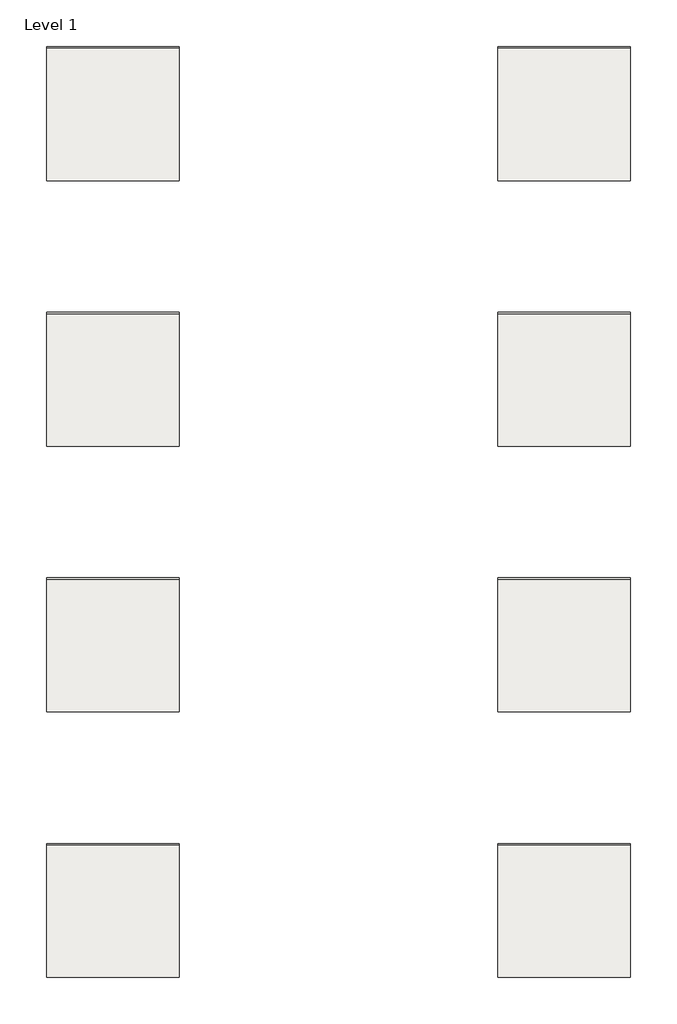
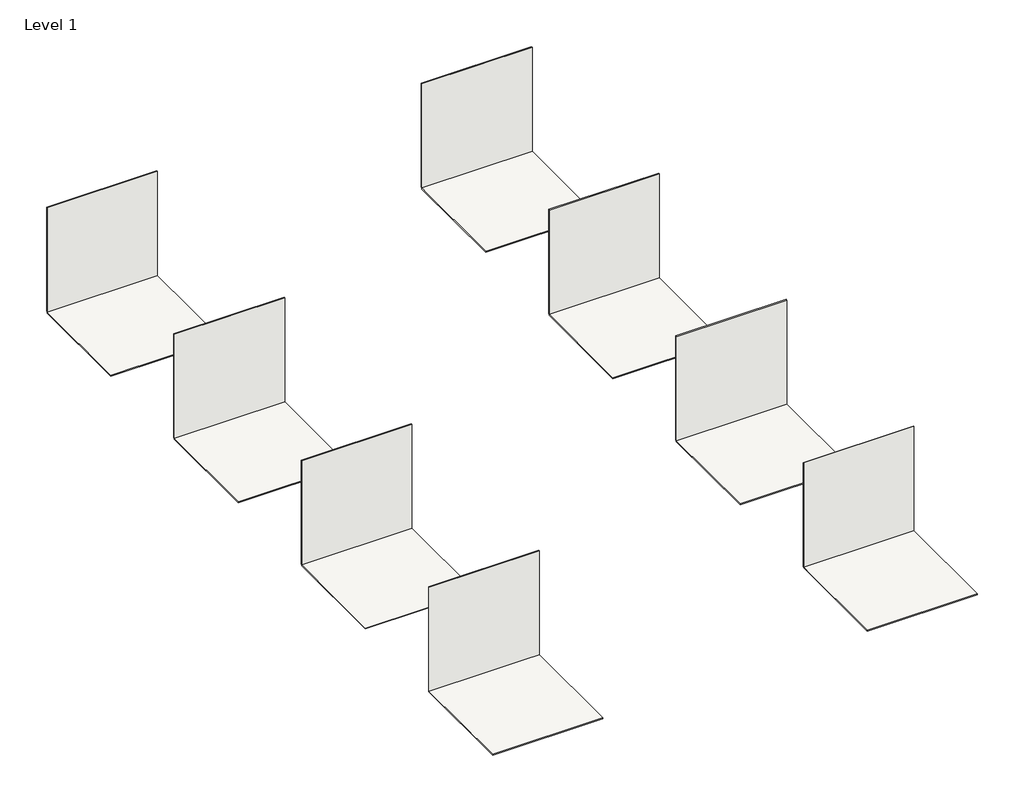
# One storey: 16 coverings.
"""IFC4 building model written with IfcOpenShell, lengths in millimetres."""

from ifc_helpers import new_model, si_unit, frame, origin, origin_with_axes, place, context, project, spatial, polyline, outline, extrude, element, save

model = new_model("IFC4")

# Units and contexts
model_context = context("Model", 3, world=origin())
ifc_project = project(units=[si_unit("LENGTHUNIT", "METRE", prefix="MILLI")], contexts=[model_context])

# Site, building, storey
site = spatial("IfcSite", under=ifc_project)
building = spatial("IfcBuilding", under=site)
storey = spatial("IfcBuildingStorey", under=building, Name="Level 1", Elevation=0.0)

# Coverings
placement = place(None, origin())
element("IfcCovering", 1, ObjectType="REVIGRES-TUSCANY_CLASSIC-BASE-88.9x88.9-MATTRECT-IVORY", at=placement, inside=storey, context=model_context, shape_type="SweptSolid", body=[
    extrude(outline(polyline([(4378.642714, -3291.9242026), (3378.642714, -3291.9242026), (3378.642714, -3281.4242026), (4378.642714, -3281.4242026), (4378.642714, -3291.9242026)])), origin_with_axes(), (0.0, 0.0, 1.0), 1000.0),
])
element("IfcCovering", 2, ObjectType="REVIGRES-TUSCANY_CLASSIC-BASE-88.9x88.9-MATTRECT-IVORY", at=placement, inside=storey, context=model_context, shape_type="SweptSolid", body=[
    extrude(outline(polyline([(4378.642714, -3291.9242026), (4378.642714, -4291.9242026), (3378.642714, -4291.9242026), (3378.642714, -3291.9242026), (4378.642714, -3291.9242026)])), frame((0.0, 0.0, -10.5), z_axis=(0.0, 0.0, 1.0), x_axis=(1.0, 0.0, 0.0)), (0.0, 0.0, 1.0), 10.5),
])
element("IfcCovering", 3, ObjectType="REVIGRES-TUSCANY_CLASSIC-BASE-88.9x88.9-MATTRECT-SAND", at=placement, inside=storey, context=model_context, shape_type="SweptSolid", body=[
    extrude(outline(polyline([(7778.642714, -3291.9242026), (6778.642714, -3291.9242026), (6778.642714, -3281.4242026), (7778.642714, -3281.4242026), (7778.642714, -3291.9242026)])), origin_with_axes(), (0.0, 0.0, 1.0), 1000.0),
])
element("IfcCovering", 4, ObjectType="REVIGRES-TUSCANY_CLASSIC-BASE-88.9x88.9-MATTRECT-SAND", at=placement, inside=storey, context=model_context, shape_type="SweptSolid", body=[
    extrude(outline(polyline([(7778.642714, -3291.9242026), (7778.642714, -4291.9242026), (6778.642714, -4291.9242026), (6778.642714, -3291.9242026), (7778.642714, -3291.9242026)])), frame((0.0, 0.0, -10.5), z_axis=(0.0, 0.0, 1.0), x_axis=(1.0, 0.0, 0.0)), (0.0, 0.0, 1.0), 10.5),
])
element("IfcCovering", 5, ObjectType="REVIGRES-TUSCANY_CLASSIC-BASE-59.2x118.6-MATTRECT-IVORY", at=placement, inside=storey, context=model_context, shape_type="SweptSolid", body=[
    extrude(outline(polyline([(4378.642714, -5291.9242026), (3378.642714, -5291.9242026), (3378.642714, -5282.1242026), (4378.642714, -5282.1242026), (4378.642714, -5291.9242026)])), origin_with_axes(), (0.0, 0.0, 1.0), 1000.0),
])
element("IfcCovering", 6, ObjectType="REVIGRES-TUSCANY_CLASSIC-BASE-59.2x118.6-MATTRECT-IVORY", at=placement, inside=storey, context=model_context, shape_type="SweptSolid", body=[
    extrude(outline(polyline([(4378.642714, -5291.9242026), (4378.642714, -6291.9242026), (3378.642714, -6291.9242026), (3378.642714, -5291.9242026), (4378.642714, -5291.9242026)])), frame((0.0, 0.0, -9.8), z_axis=(0.0, 0.0, 1.0), x_axis=(1.0, 0.0, 0.0)), (0.0, 0.0, 1.0), 9.8),
])
element("IfcCovering", 7, ObjectType="REVIGRES-TUSCANY_CLASSIC-BASE-59.2x118.6-MATTRECT-SAND", at=placement, inside=storey, context=model_context, shape_type="SweptSolid", body=[
    extrude(outline(polyline([(7778.642714, -5291.9242026), (6778.642714, -5291.9242026), (6778.642714, -5282.1242026), (7778.642714, -5282.1242026), (7778.642714, -5291.9242026)])), origin_with_axes(), (0.0, 0.0, 1.0), 1000.0),
])
element("IfcCovering", 8, ObjectType="REVIGRES-TUSCANY_CLASSIC-BASE-59.2x118.6-MATTRECT-SAND", at=placement, inside=storey, context=model_context, shape_type="SweptSolid", body=[
    extrude(outline(polyline([(7778.642714, -5291.9242026), (7778.642714, -6291.9242026), (6778.642714, -6291.9242026), (6778.642714, -5291.9242026), (7778.642714, -5291.9242026)])), frame((0.0, 0.0, -9.8), z_axis=(0.0, 0.0, 1.0), x_axis=(1.0, 0.0, 0.0)), (0.0, 0.0, 1.0), 9.8),
])
element("IfcCovering", 9, ObjectType="REVIGRES-TUSCANY_CLASSIC-BASE-118.6x118.6-MATTRECT-IVORY", at=placement, inside=storey, context=model_context, shape_type="SweptSolid", body=[
    extrude(outline(polyline([(4378.642714, -7291.9242026), (3378.642714, -7291.9242026), (3378.642714, -7282.9242026), (4378.642714, -7282.9242026), (4378.642714, -7291.9242026)])), origin_with_axes(), (0.0, 0.0, 1.0), 1000.0),
])
element("IfcCovering", 10, ObjectType="REVIGRES-TUSCANY_CLASSIC-BASE-118.6x118.6-MATTRECT-IVORY", at=placement, inside=storey, context=model_context, shape_type="SweptSolid", body=[
    extrude(outline(polyline([(4378.642714, -7291.9242026), (4378.642714, -8291.9242026), (3378.642714, -8291.9242026), (3378.642714, -7291.9242026), (4378.642714, -7291.9242026)])), frame((0.0, 0.0, -9.0), z_axis=(0.0, 0.0, 1.0), x_axis=(1.0, 0.0, 0.0)), (0.0, 0.0, 1.0), 9.0),
])
element("IfcCovering", 11, ObjectType="REVIGRES-TUSCANY_CLASSIC-BASE-118.6x277.8-MATTRECT-IVORY", at=placement, inside=storey, context=model_context, shape_type="SweptSolid", body=[
    extrude(outline(polyline([(4378.642714, -9291.9242026), (3378.642714, -9291.9242026), (3378.642714, -9285.9242026), (4378.642714, -9285.9242026), (4378.642714, -9291.9242026)])), origin_with_axes(), (0.0, 0.0, 1.0), 1000.0),
])
element("IfcCovering", 12, ObjectType="REVIGRES-TUSCANY_CLASSIC-BASE-118.6x277.8-MATTRECT-IVORY", at=placement, inside=storey, context=model_context, shape_type="SweptSolid", body=[
    extrude(outline(polyline([(4378.642714, -9291.9242026), (4378.642714, -10291.9242026), (3378.642714, -10291.9242026), (3378.642714, -9291.9242026), (4378.642714, -9291.9242026)])), frame((0.0, 0.0, -6.0), z_axis=(0.0, 0.0, 1.0), x_axis=(1.0, 0.0, 0.0)), (0.0, 0.0, 1.0), 6.0),
])
element("IfcCovering", 13, ObjectType="REVIGRES-TUSCANY_CLASSIC-BASE-118.6x118.6-MATTRECT-SAND", at=placement, inside=storey, context=model_context, shape_type="SweptSolid", body=[
    extrude(outline(polyline([(7778.642714, -7291.9242026), (6778.642714, -7291.9242026), (6778.642714, -7282.9242026), (7778.642714, -7282.9242026), (7778.642714, -7291.9242026)])), origin_with_axes(), (0.0, 0.0, 1.0), 1000.0),
])
element("IfcCovering", 14, ObjectType="REVIGRES-TUSCANY_CLASSIC-BASE-118.6x118.6-MATTRECT-SAND", at=placement, inside=storey, context=model_context, shape_type="SweptSolid", body=[
    extrude(outline(polyline([(7778.642714, -7291.9242026), (7778.642714, -8291.9242026), (6778.642714, -8291.9242026), (6778.642714, -7291.9242026), (7778.642714, -7291.9242026)])), frame((0.0, 0.0, -9.0), z_axis=(0.0, 0.0, 1.0), x_axis=(1.0, 0.0, 0.0)), (0.0, 0.0, 1.0), 9.0),
])
element("IfcCovering", 15, ObjectType="REVIGRES-TUSCANY_CLASSIC-BASE-118.6x277.8-MATTRECT-SAND", at=placement, inside=storey, context=model_context, shape_type="SweptSolid", body=[
    extrude(outline(polyline([(7778.642714, -9291.9242026), (6778.642714, -9291.9242026), (6778.642714, -9285.9242026), (7778.642714, -9285.9242026), (7778.642714, -9291.9242026)])), origin_with_axes(), (0.0, 0.0, 1.0), 1000.0),
])
element("IfcCovering", 16, ObjectType="REVIGRES-TUSCANY_CLASSIC-BASE-118.6x277.8-MATTRECT-SAND", at=placement, inside=storey, context=model_context, shape_type="SweptSolid", body=[
    extrude(outline(polyline([(7778.642714, -9291.9242026), (7778.642714, -10291.9242026), (6778.642714, -10291.9242026), (6778.642714, -9291.9242026), (7778.642714, -9291.9242026)])), frame((0.0, 0.0, -6.0), z_axis=(0.0, 0.0, 1.0), x_axis=(1.0, 0.0, 0.0)), (0.0, 0.0, 1.0), 6.0),
])

save(model, "model.ifc")
